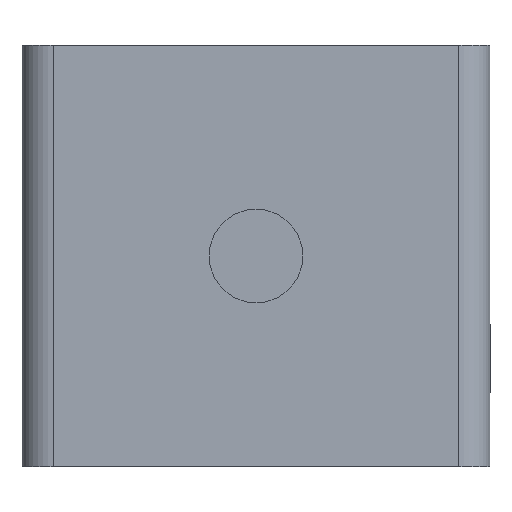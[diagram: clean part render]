
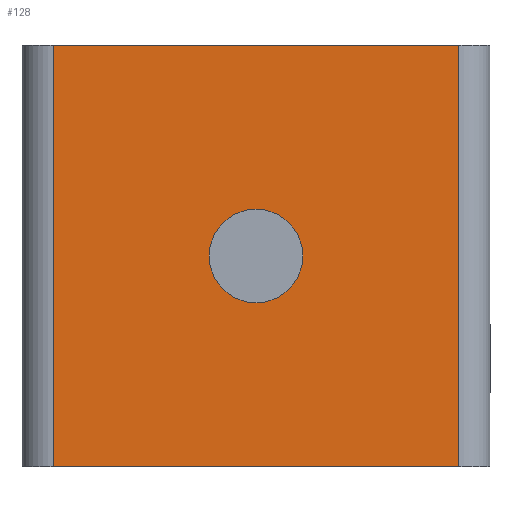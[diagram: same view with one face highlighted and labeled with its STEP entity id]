
A CAD part, front view. The second image highlights one B-rep face of the part: STEP entity #128.
In plain terms, the highlighted planar face has unit normal (0, -1, 0) as drawn and (0, 0, -1) by its records, which use the part's own axes.
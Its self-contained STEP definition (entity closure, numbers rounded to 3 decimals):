
#20 = CARTESIAN_POINT ( 'NONE',  ( 0., 13.5, -59.2 ) ) ;
#69 = DIRECTION ( 'NONE',  ( 0., -1., 0. ) ) ;
#128 = ADVANCED_FACE ( 'NONE', ( #2686, #3016 ), #1477, .F. ) ;
#215 = CARTESIAN_POINT ( 'NONE',  ( 0., 0., -59.2 ) ) ;
#230 = ORIENTED_EDGE ( 'NONE', *, *, #2275, .T. ) ;
#272 = CARTESIAN_POINT ( 'NONE',  ( 13., 0., -59.2 ) ) ;
#400 = CARTESIAN_POINT ( 'NONE',  ( 13., 13.5, -59.2 ) ) ;
#581 = DIRECTION ( 'NONE',  ( 1., 0., 0. ) ) ;
#639 = LINE ( 'NONE', #20, #1465 ) ;
#652 = ORIENTED_EDGE ( 'NONE', *, *, #3033, .T. ) ;
#718 = EDGE_LOOP ( 'NONE', ( #652, #1677, #830, #230 ) ) ;
#770 = VERTEX_POINT ( 'NONE', #400 ) ;
#830 = ORIENTED_EDGE ( 'NONE', *, *, #2136, .T. ) ;
#893 = CARTESIAN_POINT ( 'NONE',  ( 0., 0., -59.2 ) ) ;
#1254 = DIRECTION ( 'NONE',  ( 1., 0., 0. ) ) ;
#1275 = VERTEX_POINT ( 'NONE', #2053 ) ;
#1324 = DIRECTION ( 'NONE',  ( 0., -1., 0. ) ) ;
#1343 = DIRECTION ( 'NONE',  ( -1., 0., 0. ) ) ;
#1465 = VECTOR ( 'NONE', #2503, 1000. ) ;
#1477 = PLANE ( 'NONE',  #3053 ) ;
#1571 = DIRECTION ( 'NONE',  ( 0., 1., 0. ) ) ;
#1677 = ORIENTED_EDGE ( 'NONE', *, *, #2466, .T. ) ;
#1747 = CARTESIAN_POINT ( 'NONE',  ( 3., 0., -59.2 ) ) ;
#1773 = ORIENTED_EDGE ( 'NONE', *, *, #2772, .F. ) ;
#1799 = VECTOR ( 'NONE', #1343, 1000. ) ;
#2053 = CARTESIAN_POINT ( 'NONE',  ( -3., 0., -59.2 ) ) ;
#2113 = VERTEX_POINT ( 'NONE', #2752 ) ;
#2136 = EDGE_CURVE ( 'NONE', #3962, #4147, #2758, .T. ) ;
#2195 = DIRECTION ( 'NONE',  ( 0., 0., 1. ) ) ;
#2224 = VERTEX_POINT ( 'NONE', #1747 ) ;
#2275 = EDGE_CURVE ( 'NONE', #4147, #2113, #3235, .T. ) ;
#2363 = CIRCLE ( 'NONE', #4161, 3. ) ;
#2466 = EDGE_CURVE ( 'NONE', #770, #3962, #4457, .T. ) ;
#2503 = DIRECTION ( 'NONE',  ( 1., 0., 0. ) ) ;
#2686 = FACE_BOUND ( 'NONE', #4580, .T. ) ;
#2710 = DIRECTION ( 'NONE',  ( 0., 0., -1. ) ) ;
#2752 = CARTESIAN_POINT ( 'NONE',  ( -13., 13.5, -59.2 ) ) ;
#2758 = LINE ( 'NONE', #3803, #1799 ) ;
#2772 = EDGE_CURVE ( 'NONE', #1275, #2224, #4245, .T. ) ;
#2803 = EDGE_CURVE ( 'NONE', #2224, #1275, #2363, .T. ) ;
#3016 = FACE_OUTER_BOUND ( 'NONE', #718, .T. ) ;
#3033 = EDGE_CURVE ( 'NONE', #2113, #770, #639, .T. ) ;
#3044 = CARTESIAN_POINT ( 'NONE',  ( -13., -13.5, -59.2 ) ) ;
#3053 = AXIS2_PLACEMENT_3D ( 'NONE', #4313, #2195, #69 ) ;
#3235 = LINE ( 'NONE', #4042, #4068 ) ;
#3363 = ORIENTED_EDGE ( 'NONE', *, *, #2803, .F. ) ;
#3371 = DIRECTION ( 'NONE',  ( 0., 0., -1. ) ) ;
#3402 = VECTOR ( 'NONE', #1324, 1000. ) ;
#3477 = CARTESIAN_POINT ( 'NONE',  ( 13., -13.5, -59.2 ) ) ;
#3803 = CARTESIAN_POINT ( 'NONE',  ( 0., -13.5, -59.2 ) ) ;
#3962 = VERTEX_POINT ( 'NONE', #3477 ) ;
#4042 = CARTESIAN_POINT ( 'NONE',  ( -13., 0., -59.2 ) ) ;
#4068 = VECTOR ( 'NONE', #1571, 1000. ) ;
#4147 = VERTEX_POINT ( 'NONE', #3044 ) ;
#4161 = AXIS2_PLACEMENT_3D ( 'NONE', #215, #2710, #581 ) ;
#4245 = CIRCLE ( 'NONE', #4395, 3. ) ;
#4313 = CARTESIAN_POINT ( 'NONE',  ( -13., 13.5, -59.2 ) ) ;
#4395 = AXIS2_PLACEMENT_3D ( 'NONE', #893, #3371, #1254 ) ;
#4457 = LINE ( 'NONE', #272, #3402 ) ;
#4580 = EDGE_LOOP ( 'NONE', ( #3363, #1773 ) ) ;
